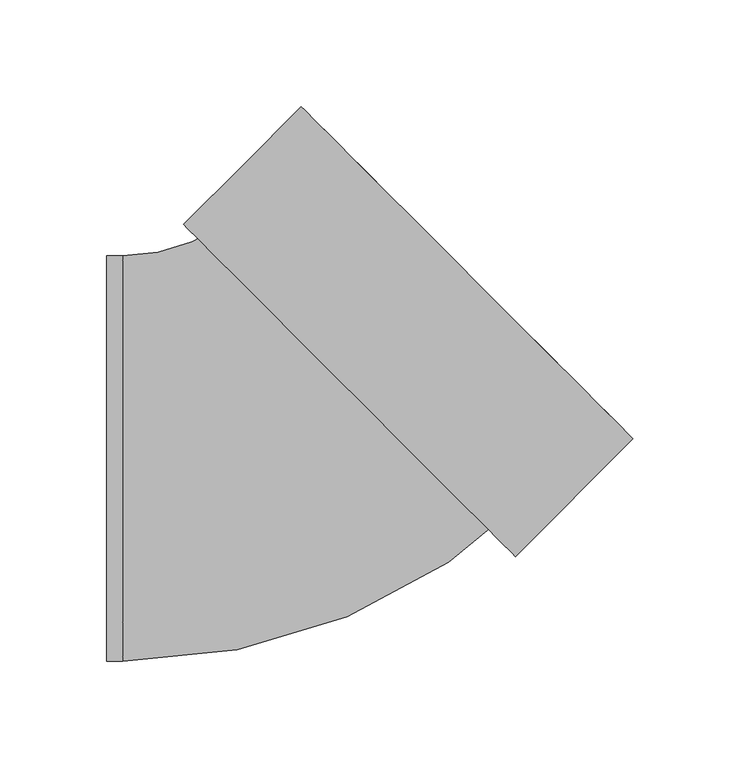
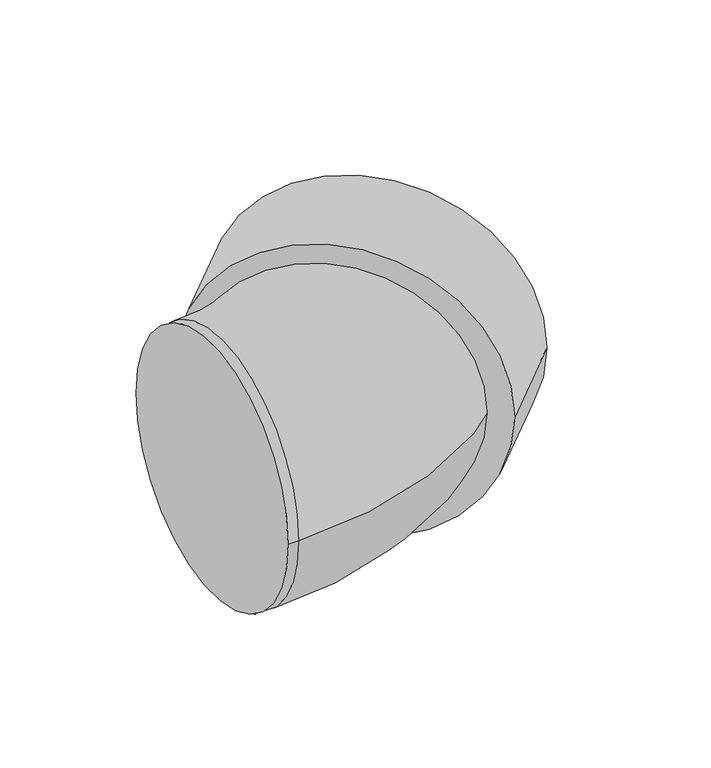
"""IFC4 building model written with IfcOpenShell, lengths in millimetres: duct fitting geometry, NLRS_57_DUF_UN_bend EPP_M&G : ø125 - ø180."""

from ifc_helpers import new_model, si_unit, point, frame, origin, place, context, project, spatial, polyline, circle_curve, ellipse_curve, trimmed, source, transform, mapped, element, save
from ifc_brep_helpers import plane_surface, cylinder_surface, revolved_surface, advanced_brep


def duct_fitting_64c12892(model_context):
    return source(origin(), model_context, "Body", "AdvancedBrep", [
        advanced_brep(
        [(-82.0, -95.0, 0.0), (-82.0, 95.0, 0.0), (-74.5, -95.0, 0.0), (-74.5, 95.0, 0.0), (-14.495689, 119.8545994, 0.0), (119.8545994, -14.495689, 0.0), (127.9863274, -6.363961, 0.0), (-6.363961, 127.9863274, 0.0)],
        [
            (0, 1, circle_curve(frame((-82.0, 0.0, 0.0), z_axis=(-1.0, 0.0, 0.0), x_axis=(0.0, 1.0, 0.0)), 95.0)),
            (1, 0, circle_curve(frame((-82.0, 0.0, 0.0), z_axis=(-1.0, 0.0, 0.0), x_axis=(0.0, 1.0, 0.0)), 95.0)),
            (0, 2),
            (2, 3, circle_curve(frame((-74.5, 0.0, 0.0), z_axis=(-1.0, 0.0, 0.0), x_axis=(0.0, 1.0, 0.0)), 95.0)),
            (3, 1),
            (3, 2, circle_curve(frame((-74.5, 0.0, 0.0), z_axis=(-1.0, 0.0, 0.0), x_axis=(0.0, 1.0, 0.0)), 95.0)),
            (4, 3, circle_curve(frame((-74.5, 179.8589104, 0.0), z_axis=(0.0, 0.0, -1.0), x_axis=(0.0, -1.0, 0.0)), 84.8589104)),
            (2, 5, circle_curve(frame((-74.5, 179.8589104, 0.0), z_axis=(0.0, 0.0, 1.0), x_axis=(0.0, -1.0, 0.0)), 274.8589104)),
            (5, 4, circle_curve(frame((52.6794552, 52.6794552, 0.0), z_axis=(-0.707106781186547, -0.707106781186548, 0.0), x_axis=(-0.707106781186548, 0.707106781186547, 0.0)), 95.0)),
            (4, 5, circle_curve(frame((52.6794552, 52.6794552, 0.0), z_axis=(-0.7071067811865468, -0.7071067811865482, 0.0), x_axis=(-0.7071067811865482, 0.7071067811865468, 0.0)), 95.0)),
            (6, 7, circle_curve(frame((60.8111832, 60.8111832, 0.0), z_axis=(0.7071067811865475, 0.7071067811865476, 0.0), x_axis=(-0.7071067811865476, 0.7071067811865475, 0.0)), 95.0)),
            (7, 6, circle_curve(frame((60.8111832, 60.8111832, 0.0), z_axis=(0.7071067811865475, 0.7071067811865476, 0.0), x_axis=(-0.7071067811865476, 0.7071067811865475, 0.0)), 95.0)),
            (5, 6),
            (7, 4),
        ],
        [
            plane_surface(frame((-82.0, 0.0, 0.0), z_axis=(-1.0, 0.0, 0.0), x_axis=(0.0, 0.0, 1.0))),
            cylinder_surface(frame((-82.0, 0.0, 0.0), z_axis=(-1.0, 0.0, 0.0), x_axis=(0.0, 1.0, 0.0)), 95.0),
            revolved_surface(trimmed(ellipse_curve(frame((-74.5, 0.0, 0.0), z_axis=(-1.0, 0.0, 0.0), x_axis=(0.0, 1.0, 0.0)), 95.0, 95.0), [point((-74.5, -95.0, 0.0))], [point((-74.5, 95.0, 0.0))], True, "CARTESIAN"), (-74.5, 179.8589104, 0.0), (0.0, 0.0, 1.0)),
            revolved_surface(trimmed(ellipse_curve(frame((-74.5, 0.0, 0.0), z_axis=(-1.0, 0.0, 0.0), x_axis=(0.0, 1.0, 0.0)), 95.0, 95.0), [point((-74.5, 95.0, 0.0))], [point((-74.5, -95.0, 0.0))], True, "CARTESIAN"), (-74.5, 179.8589104, 0.0), (0.0, 0.0, 1.0)),
            plane_surface(frame((60.8111832, 60.8111832, 0.0), z_axis=(0.7071067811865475, 0.7071067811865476, 0.0), x_axis=(0.0, 0.0, 1.0))),
            cylinder_surface(frame((52.6794552, 52.6794552, 0.0), z_axis=(-0.7071067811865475, -0.7071067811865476, 0.0), x_axis=(-0.7071067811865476, 0.7071067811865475, 0.0)), 95.0),
        ],
        [
            (0, [[1, 2]]),
            (1, [[-1, 3, 4, 5]]),
            (1, [[-2, -5, 6, -3]]),
            (2, [[7, -4, 8, 9]]),
            (3, [[-8, -6, -7, 10]]),
            (4, [[11, 12]]),
            (5, [[-9, 13, -12, 14]]),
            (5, [[-10, -14, -11, -13]]),
        ],
    ),
        advanced_brep(
        [(109.6015511, -45.9619408, 0.0), (-45.9619408, 109.6015511, 0.0), (164.75588, 9.1923882, 0.0), (9.1923882, 164.75588, 0.0), (154.1492783, 19.7989899, 0.0), (19.7989899, 154.1492783, 0.0), (127.9863274, -6.363961, 0.0), (-6.363961, 127.9863274, 0.0)],
        [
            (0, 1, circle_curve(frame((31.8198052, 31.8198052, 0.0), z_axis=(-0.707106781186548, -0.7071067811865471, 0.0), x_axis=(-0.7071067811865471, 0.707106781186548, 0.0)), 110.0)),
            (1, 0, circle_curve(frame((31.8198052, 31.8198052, 0.0), z_axis=(-0.707106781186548, -0.7071067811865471, 0.0), x_axis=(-0.7071067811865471, 0.707106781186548, 0.0)), 110.0)),
            (2, 3, circle_curve(frame((86.9741341, 86.9741341, 0.0), z_axis=(0.707106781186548, 0.7071067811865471, 0.0), x_axis=(-0.7071067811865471, 0.707106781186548, 0.0)), 110.0)),
            (3, 2, circle_curve(frame((86.9741341, 86.9741341, 0.0), z_axis=(0.707106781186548, 0.7071067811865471, 0.0), x_axis=(-0.7071067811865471, 0.707106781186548, 0.0)), 110.0)),
            (4, 5, circle_curve(frame((86.9741341, 86.9741341, 0.0), z_axis=(-0.7071067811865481, -0.7071067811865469, 0.0), x_axis=(-0.7071067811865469, 0.7071067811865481, 0.0)), 95.0)),
            (5, 4, circle_curve(frame((86.9741341, 86.9741341, 0.0), z_axis=(-0.7071067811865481, -0.7071067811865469, 0.0), x_axis=(-0.7071067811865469, 0.7071067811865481, 0.0)), 95.0)),
            (0, 2),
            (3, 1),
            (6, 7, circle_curve(frame((60.8111832, 60.8111832, 0.0), z_axis=(0.7071067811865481, 0.7071067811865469, 0.0), x_axis=(-0.7071067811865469, 0.7071067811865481, 0.0)), 95.0)),
            (7, 6, circle_curve(frame((60.8111832, 60.8111832, 0.0), z_axis=(0.7071067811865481, 0.7071067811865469, 0.0), x_axis=(-0.7071067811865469, 0.7071067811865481, 0.0)), 95.0)),
            (7, 5),
            (4, 6),
        ],
        [
            plane_surface(frame((31.8198052, 31.8198052, 0.0), z_axis=(-0.707106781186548, -0.7071067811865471, 0.0), x_axis=(0.0, 0.0, 1.0))),
            plane_surface(frame((86.9741341, 86.9741341, 0.0), z_axis=(0.707106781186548, 0.7071067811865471, 0.0), x_axis=(0.0, 0.0, 1.0))),
            cylinder_surface(frame((31.8198052, 31.8198052, 0.0), z_axis=(-0.707106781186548, -0.7071067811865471, 0.0), x_axis=(-0.7071067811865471, 0.707106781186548, 0.0)), 110.0),
            plane_surface(frame((60.8111832, 60.8111832, 0.0), z_axis=(0.7071067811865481, 0.7071067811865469, 0.0), x_axis=(0.0, 0.0, 1.0))),
            revolved_surface(polyline([(-6.363961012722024, 127.986327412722, 0.0), (19.79898988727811, 154.14927831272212, 0.0)]), (60.8111832, 60.8111832, 0.0), (-0.7071067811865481, -0.7071067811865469, 0.0)),
        ],
        [
            (0, [[1, 2]]),
            (1, [[3, 4], [5, 6]]),
            (2, [[-1, 7, -4, 8]]),
            (2, [[-2, -8, -3, -7]]),
            (3, [[9, 10]]),
            (4, [[-10, 11, -5, 12]]),
            (4, [[-9, -12, -6, -11]]),
        ],
    ),
    ])


if __name__ == "__main__":
    model = new_model("IFC4")
    model_context = context("Model", 3, world=origin())
    ifc_project = project(units=[si_unit("LENGTHUNIT", "METRE", prefix="MILLI")], contexts=[model_context])
    site = spatial("IfcSite", under=ifc_project)
    building = spatial("IfcBuilding", under=site)
    placement = place(None, origin())
    duct_fitting_shape = duct_fitting_64c12892(model_context)
    element("IfcDuctFitting", 1, ObjectType="NLRS_57_DUF_UN_bend EPP_M&G : ø125 - ø180", at=placement, inside=building, context=model_context, shape_type="MappedRepresentation", body=[
        mapped(duct_fitting_shape, transform((0.0, 0.0, 0.0), x_axis=(1.0, 0.0, 0.0), y_axis=(0.0, 1.0, 0.0), z_axis=(0.0, 0.0, 1.0))),
    ])
    save(model, "model.ifc")
